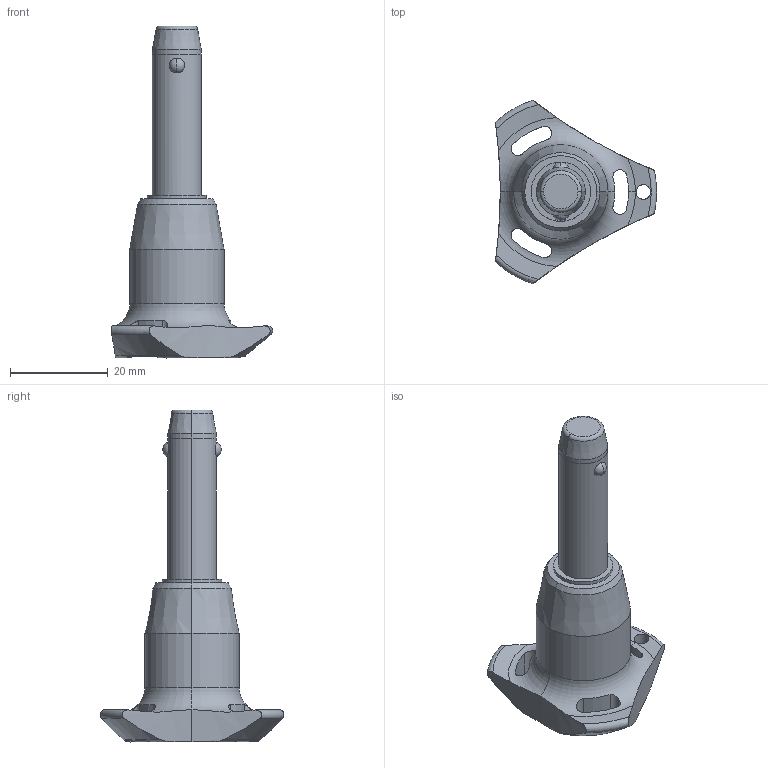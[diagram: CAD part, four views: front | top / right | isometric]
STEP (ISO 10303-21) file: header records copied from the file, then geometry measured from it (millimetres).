
FILE_DESCRIPTION (( 'STEP AP203' ), '1' );
FILE_NAME ('QR1726.M10-025-T.step', '2025-11-13T11:08:51', ( '' ), ( '' ), 'SwSTEP 2.0', 'SolidWorks 2019', '' );
FILE_SCHEMA (( 'CONFIG_CONTROL_DESIGN' ));
Length unit declared in the file: millimetre
Products named in the file (1): QR1726.M10-025-T
Bounding box: 33 x 37.51 x 67.9 mm (x, y, z)
Volume: 13043.1 mm3; surface area: 4950 mm2
Topology: 1 solids, 1 shells, 68 faces, 180 edges, 113 vertices
Faces by surface type: cylinder 32, cone 14, torus 11, sphere 6, plane 5
Entity records: 2838 total; most frequent: CARTESIAN_POINT 1098, ORIENTED_EDGE 360, DIRECTION 347, EDGE_CURVE 180, AXIS2_PLACEMENT_3D 154, VERTEX_POINT 113, CIRCLE 85, EDGE_LOOP 75
